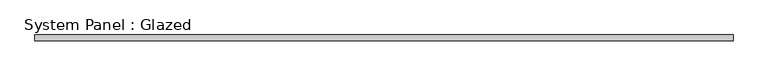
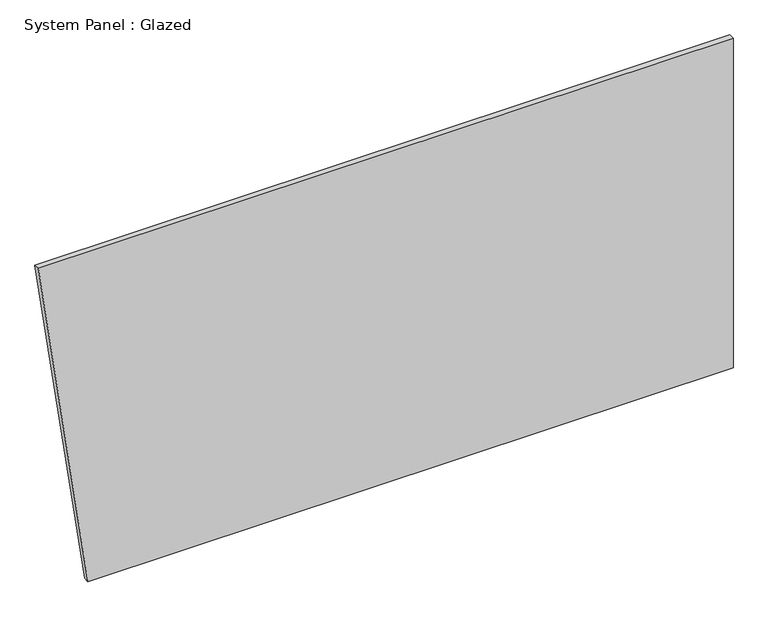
"""IFC4 building model written with IfcOpenShell, lengths in millimetres: plate geometry, System Panel : Glazed."""

from ifc_helpers import new_model, si_unit, frame, origin, place, context, project, spatial, polyline, outline, extrude, source, transform, mapped, element, save


def system_panel_glazed_7d239be6(model_context):
    return source(origin(), model_context, "Body", "SweptSolid", [
        extrude(outline(polyline([(0.0, -1302.2721308), (0.0, 1519.3174859), (1524.0, 1519.3174859), (1524.0, -1519.3174859), (0.0, -1302.2721308)])), frame((0.0, 19.05, 0.0), z_axis=(0.0, 1.0, 0.0), x_axis=(0.0, 0.0, 1.0)), (0.0, 0.0, 1.0), 25.4),
    ])


if __name__ == "__main__":
    model = new_model("IFC4")
    model_context = context("Model", 3, world=origin())
    ifc_project = project(units=[si_unit("LENGTHUNIT", "METRE", prefix="MILLI")], contexts=[model_context])
    site = spatial("IfcSite", under=ifc_project)
    building = spatial("IfcBuilding", under=site)
    placement = place(None, origin())
    system_panel_glazed_shape = system_panel_glazed_7d239be6(model_context)
    element("IfcPlate", 1, ObjectType="System Panel : Glazed", at=placement, inside=building, context=model_context, shape_type="MappedRepresentation", body=[
        mapped(system_panel_glazed_shape, transform((0.0, 0.0, 0.0), x_axis=(1.0, 0.0, 0.0), y_axis=(0.0, 1.0, 0.0), z_axis=(0.0, 0.0, 1.0))),
    ])
    save(model, "model.ifc")
